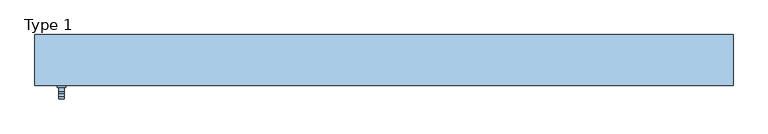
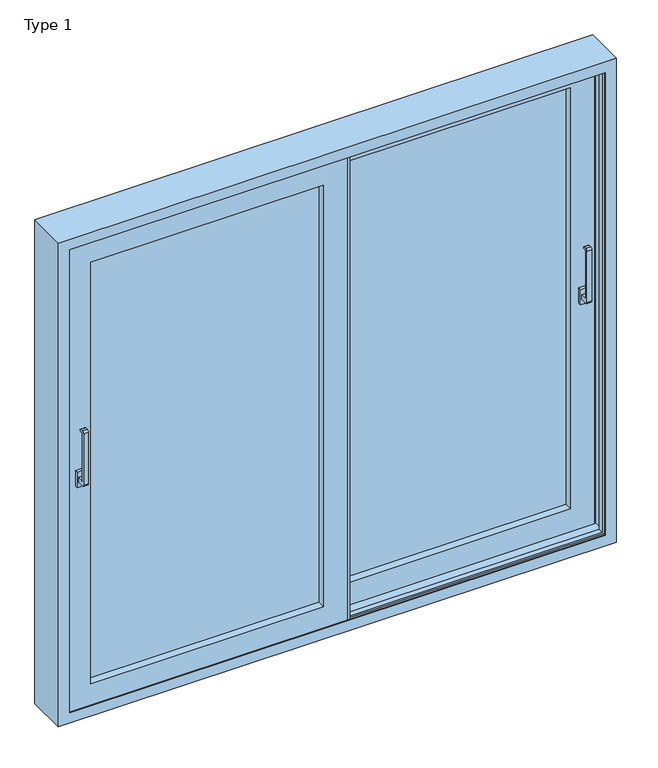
"""IFC4 building model written with IfcOpenShell, lengths in millimetres: window geometry, ETEM_ES70_Double_Lift_Sliding : Type 1."""

from ifc_helpers import new_model, si_unit, point, frame, frame_2d, origin, place, context, project, spatial, polyline, circle_curve, trimmed, segment, composite_curve, outline, extrude, faceted_brep, source, transform, mapped, element, save


def type_1_9f4e2c51(model_context):
    return source(origin(), model_context, "Body", "SolidModel", [
        extrude(outline(polyline([(1123.5, 38.5), (1093.5, 38.5), (1093.5, 51.5), (1123.5, 51.5), (1123.5, 38.5)])), frame((0.0, 0.0, 1065.0), z_axis=(0.0, 0.0, 1.0), x_axis=(1.0, 0.0, 0.0)), (0.0, 0.0, 1.0), 70.0),
        extrude(outline(composite_curve([segment(polyline([(38.5, 1090.0), (6.9263152, 1090.0)]), True, "CONTINUOUS"), segment(trimmed(circle_curve(frame_2d((6.9263152, 1098.4263152)), 8.4263152), [point((6.9263152, 1090.0))], [point((-1.5, 1098.4263152))], False, "CARTESIAN"), True, "CONTINUOUS"), segment(polyline([(-1.5, 1098.4263152), (-1.5, 1331.5736848)]), True, "CONTINUOUS"), segment(trimmed(circle_curve(frame_2d((6.9263152, 1331.5736848)), 8.4263152), [point((-1.5, 1331.5736848))], [point((6.9263152, 1340.0))], False, "CARTESIAN"), True, "CONTINUOUS"), segment(polyline([(6.9263152, 1340.0), (18.5, 1340.0)]), True, "CONTINUOUS"), segment(trimmed(circle_curve(frame_2d((18.5, 1335.0)), 5.0), [point((18.5, 1340.0))], [point((18.5, 1330.0))], False, "CARTESIAN"), True, "CONTINUOUS"), segment(polyline([(18.5, 1330.0), (12.0355339, 1330.0)]), True, "CONTINUOUS"), segment(trimmed(circle_curve(frame_2d((12.0355339, 1326.4644661)), 3.5355339), [point((12.0355339, 1330.0))], [point((8.5, 1326.4644661))], True, "CARTESIAN"), True, "CONTINUOUS"), segment(polyline([(8.5, 1326.4644661), (8.5, 1113.5355339)]), True, "CONTINUOUS"), segment(trimmed(circle_curve(frame_2d((12.0355339, 1113.5355339)), 3.5355339), [point((8.5, 1113.5355339))], [point((12.0355339, 1110.0))], True, "CARTESIAN"), True, "CONTINUOUS"), segment(polyline([(12.0355339, 1110.0), (38.5, 1110.0), (38.5, 1090.0)]), True, "CONTINUOUS")], self_intersect=False)), frame((1098.5, 0.0, 0.0), z_axis=(1.0, 0.0, 0.0), x_axis=(0.0, 1.0, 0.0)), (0.0, 0.0, 1.0), 20.0),
        extrude(outline(polyline([(-1093.5, -51.5), (-1123.5, -51.5), (-1123.5, -38.5), (-1093.5, -38.5), (-1093.5, -51.5)])), frame((0.0, 0.0, 1065.0), z_axis=(0.0, 0.0, 1.0), x_axis=(1.0, 0.0, 0.0)), (0.0, 0.0, 1.0), 70.0),
        extrude(outline(composite_curve([segment(polyline([(-51.5, 1090.0), (-83.0736848, 1090.0)]), True, "CONTINUOUS"), segment(trimmed(circle_curve(frame_2d((-83.0736848, 1098.4263152)), 8.4263152), [point((-83.0736848, 1090.0))], [point((-91.5, 1098.4263152))], False, "CARTESIAN"), True, "CONTINUOUS"), segment(polyline([(-91.5, 1098.4263152), (-91.5, 1331.5736848)]), True, "CONTINUOUS"), segment(trimmed(circle_curve(frame_2d((-83.0736848, 1331.5736848)), 8.4263152), [point((-91.5, 1331.5736848))], [point((-83.0736848, 1340.0))], False, "CARTESIAN"), True, "CONTINUOUS"), segment(polyline([(-83.0736848, 1340.0), (-71.5, 1340.0)]), True, "CONTINUOUS"), segment(trimmed(circle_curve(frame_2d((-71.5, 1335.0)), 5.0), [point((-71.5, 1340.0))], [point((-71.5, 1330.0))], False, "CARTESIAN"), True, "CONTINUOUS"), segment(polyline([(-71.5, 1330.0), (-77.9644661, 1330.0)]), True, "CONTINUOUS"), segment(trimmed(circle_curve(frame_2d((-77.9644661, 1326.4644661)), 3.5355339), [point((-77.9644661, 1330.0))], [point((-81.5, 1326.4644661))], True, "CARTESIAN"), True, "CONTINUOUS"), segment(polyline([(-81.5, 1326.4644661), (-81.5, 1113.5355339)]), True, "CONTINUOUS"), segment(trimmed(circle_curve(frame_2d((-77.9644661, 1113.5355339)), 3.5355339), [point((-81.5, 1113.5355339))], [point((-77.9644661, 1110.0))], True, "CARTESIAN"), True, "CONTINUOUS"), segment(polyline([(-77.9644661, 1110.0), (-51.5, 1110.0), (-51.5, 1090.0)]), True, "CONTINUOUS")], self_intersect=False)), frame((-1118.5, 0.0, 0.0), z_axis=(1.0, 0.0, 0.0), x_axis=(0.0, 1.0, 0.0)), (0.0, 0.0, 1.0), 20.0),
        faceted_brep([(46.5, -26.1, 2161.0), (46.5, -38.5, 2161.0), (46.5, -38.5, 39.0), (46.5, -26.1, 39.0), (-1161.0, -38.5, 2161.0), (-1161.0, -38.5, 39.0), (-56.5, -38.5, 142.0), (-1058.0, -38.5, 142.0), (-1058.0, -38.5, 2058.0), (-56.5, -38.5, 2058.0), (-1161.0, -26.1, 39.0), (-1161.0, -26.1, 2161.0), (15.4, -26.1, 2129.9), (-1129.9, -26.1, 2129.9), (-1129.9, -26.1, 70.1), (15.4, -26.1, 70.1), (15.4, 19.1, 2129.9), (15.4, 19.1, 70.1), (-1129.9, 19.1, 70.1), (46.5, 19.1, 2161.0), (-1161.0, 19.1, 2161.0), (-1161.0, 19.1, 39.0), (46.5, 19.1, 39.0), (-1129.9, 19.1, 2129.9), (46.5, 31.5, 2161.0), (46.5, 31.5, 39.0), (-1161.0, 31.5, 39.0), (-1161.0, 31.5, 2161.0), (-56.5, 31.5, 2058.0), (-1058.0, 31.5, 2058.0), (-1058.0, 31.5, 142.0), (-56.5, 31.5, 142.0)], [[[0, 1, 2, 3]], [[1, 4, 5, 2], [6, 7, 8, 9]], [[3, 2, 5, 10]], [[3, 10, 11, 0], [12, 13, 14, 15]], [[16, 12, 15, 17]], [[17, 15, 14, 18]], [[19, 20, 21, 22], [17, 18, 23, 16]], [[24, 19, 22, 25]], [[25, 22, 21, 26]], [[25, 26, 27, 24], [28, 29, 30, 31]], [[9, 28, 31, 6]], [[6, 31, 30, 7]], [[10, 5, 4, 11]], [[18, 14, 13, 23]], [[26, 21, 20, 27]], [[7, 30, 29, 8]], [[11, 4, 1, 0]], [[23, 13, 12, 16]], [[27, 20, 19, 24]], [[8, 29, 28, 9]]]),
        faceted_brep([(-46.5, 109.1, 2161.0), (-46.5, 121.5, 2161.0), (-46.5, 121.5, 39.0), (-46.5, 109.1, 39.0), (1161.0, 121.5, 39.0), (1161.0, 109.1, 39.0), (1161.0, 121.5, 2161.0), (1058.0, 121.5, 142.0), (1058.0, 121.5, 2058.0), (56.5, 121.5, 2058.0), (56.5, 121.5, 142.0), (1161.0, 109.1, 2161.0), (-15.4, 109.1, 70.1), (-15.4, 109.1, 2129.9), (1129.9, 109.1, 2129.9), (1129.9, 109.1, 70.1), (-15.4, 63.9, 2129.9), (-15.4, 63.9, 70.1), (1129.9, 63.9, 70.1), (1129.9, 63.9, 2129.9), (-46.5, 63.9, 39.0), (-46.5, 63.9, 2161.0), (1161.0, 63.9, 2161.0), (1161.0, 63.9, 39.0), (-46.5, 51.5, 2161.0), (-46.5, 51.5, 39.0), (1161.0, 51.5, 39.0), (1161.0, 51.5, 2161.0), (56.5, 51.5, 142.0), (56.5, 51.5, 2058.0), (1058.0, 51.5, 2058.0), (1058.0, 51.5, 142.0)], [[[0, 1, 2, 3]], [[3, 2, 4, 5]], [[2, 1, 6, 4], [7, 8, 9, 10]], [[5, 4, 6, 11]], [[5, 11, 0, 3], [12, 13, 14, 15]], [[16, 13, 12, 17]], [[17, 12, 15, 18]], [[18, 15, 14, 19]], [[20, 21, 22, 23], [18, 19, 16, 17]], [[24, 21, 20, 25]], [[25, 20, 23, 26]], [[26, 23, 22, 27]], [[26, 27, 24, 25], [28, 29, 30, 31]], [[9, 29, 28, 10]], [[10, 28, 31, 7]], [[7, 31, 30, 8]], [[11, 6, 1, 0]], [[19, 14, 13, 16]], [[27, 22, 21, 24]], [[8, 30, 29, 9]]]),
        extrude(outline(polyline([(56.5, -38.5), (46.5, -38.5), (46.5, 47.5), (56.5, 47.5), (56.5, -38.5)])), frame((0.0, 0.0, 39.0), z_axis=(0.0, 0.0, 1.0), x_axis=(1.0, 0.0, 0.0)), (0.0, 0.0, 1.0), 2122.0),
        extrude(outline(polyline([(-56.5, 37.5), (-56.5, 121.5), (-46.5, 121.5), (-46.5, 37.5), (-56.5, 37.5)])), frame((0.0, 0.0, 39.0), z_axis=(0.0, 0.0, 1.0), x_axis=(1.0, 0.0, 0.0)), (0.0, 0.0, 1.0), 2122.0),
        extrude(outline(polyline([(-56.5, -4.4992409), (-1058.0, -4.4992409), (-1058.0, 1.5007591), (-56.5, 1.5007591), (-56.5, -4.4992409)])), frame((0.0, 0.0, 142.0), z_axis=(0.0, 0.0, 1.0), x_axis=(1.0, 0.0, 0.0)), (0.0, 0.0, 1.0), 1916.0),
        extrude(outline(polyline([(56.5, 113.5007591), (1058.0, 113.5007591), (1058.0, 107.5007591), (56.5, 107.5007591), (56.5, 113.5007591)])), frame((0.0, 0.0, 142.0), z_axis=(0.0, 0.0, 1.0), x_axis=(1.0, 0.0, 0.0)), (0.0, 0.0, 1.0), 1916.0),
        faceted_brep([(-1152.0, 130.0, 0.0), (-1152.0, 122.9, 0.0), (1152.0, 122.9, 0.0), (1152.0, 130.0, 0.0), (1200.0, 130.0, 0.0), (1200.0, -45.1, 0.0), (-1200.0, -45.1, 0.0), (-1200.0, 130.0, 0.0), (-1152.0, 122.9, 2152.0), (1152.0, 122.9, 2152.0), (1152.0, 122.9, 16.3), (1183.7, 122.9, 16.3), (1183.7, 122.9, 2183.7), (-1183.7, 122.9, 2183.7), (-1183.7, 122.9, 16.3), (-1152.0, 122.9, 16.3), (-1152.0, 130.0, 2152.0), (1152.0, 130.0, 2152.0), (1200.0, 130.0, 2200.0), (1200.0, -45.1, 2200.0), (-1200.0, -45.1, 2200.0), (1152.0, -45.1, 2152.0), (1152.0, -45.1, 48.0), (-1152.0, -45.1, 48.0), (-1152.0, -45.1, 2152.0), (-1200.0, 130.0, 2200.0), (1183.7, 91.0, 16.3), (-1183.7, 91.0, 16.3), (1183.7, 91.0, 2183.7), (-1183.7, 91.0, 2183.7), (1160.0, 91.0, 40.0), (1160.0, 91.0, 2160.0), (-1160.0, 91.0, 2160.0), (-1160.0, 91.0, 40.0), (1160.0, 105.0, 2160.0), (1160.0, 105.0, 40.0), (-1160.0, 105.0, 40.0), (-1160.0, 105.0, 2160.0), (1152.0, 105.0, 48.0), (1152.0, 105.0, 2152.0), (-1152.0, 105.0, 2152.0), (-1152.0, 105.0, 48.0), (1152.0, 82.0, 2152.0), (1152.0, 82.0, 48.0), (-1152.0, 82.0, 48.0), (1183.7, 82.0, 16.3), (1183.7, 82.0, 2183.7), (-1183.7, 82.0, 2183.7), (-1183.7, 82.0, 16.3), (-1152.0, 82.0, 2152.0), (1183.7, 1.0, 2183.7), (1183.7, 1.0, 16.3), (-1183.7, 1.0, 16.3), (-1183.7, 1.0, 2183.7), (1152.0, 1.0, 48.0), (1152.0, 1.0, 2152.0), (-1152.0, 1.0, 2152.0), (-1152.0, 1.0, 48.0), (1152.0, -22.0, 2152.0), (1152.0, -22.0, 48.0), (-1152.0, -22.0, 48.0), (1160.0, -22.0, 40.0), (1160.0, -22.0, 2160.0), (-1160.0, -22.0, 2160.0), (-1160.0, -22.0, 40.0), (-1152.0, -22.0, 2152.0), (1160.0, -8.0, 2160.0), (1160.0, -8.0, 40.0), (-1160.0, -8.0, 40.0), (1183.7, -8.0, 16.3), (1183.7, -8.0, 2183.7), (-1183.7, -8.0, 2183.7), (-1183.7, -8.0, 16.3), (-1160.0, -8.0, 2160.0), (1183.7, -41.3, 2183.7), (1183.7, -41.3, 16.3), (-1183.7, -41.3, 16.3), (-1183.7, -41.3, 2183.7), (1152.0, -41.3, 48.0), (1152.0, -41.3, 2152.0), (-1152.0, -41.3, 2152.0), (-1152.0, -41.3, 48.0)], [[[0, 1, 2, 3, 4, 5, 6, 7]], [[8, 9, 10, 11, 12, 13, 14, 15]], [[1, 0, 16, 8, 15]], [[2, 1, 15, 10]], [[3, 2, 10, 9, 17]], [[5, 4, 18, 19]], [[5, 19, 20, 6], [21, 22, 23, 24]], [[7, 6, 20, 25]], [[0, 7, 25, 18, 4, 3, 17, 16]], [[26, 11, 10, 15, 14, 27]], [[28, 12, 11, 26]], [[27, 14, 13, 29]], [[28, 26, 27, 29], [30, 31, 32, 33]], [[34, 31, 30, 35]], [[35, 30, 33, 36]], [[34, 35, 36, 37], [38, 39, 40, 41]], [[42, 39, 38, 43]], [[43, 38, 41, 44]], [[45, 46, 47, 48], [42, 43, 44, 49]], [[50, 46, 45, 51]], [[51, 45, 48, 52]], [[50, 51, 52, 53], [54, 55, 56, 57]], [[58, 55, 54, 59]], [[59, 54, 57, 60]], [[61, 62, 63, 64], [58, 59, 60, 65]], [[66, 62, 61, 67]], [[67, 61, 64, 68]], [[69, 70, 71, 72], [66, 67, 68, 73]], [[74, 70, 69, 75]], [[75, 69, 72, 76]], [[74, 75, 76, 77], [78, 79, 80, 81]], [[21, 79, 78, 22]], [[22, 78, 81, 23]], [[36, 33, 32, 37]], [[44, 41, 40, 49]], [[52, 48, 47, 53]], [[60, 57, 56, 65]], [[68, 64, 63, 73]], [[76, 72, 71, 77]], [[23, 81, 80, 24]], [[18, 25, 20, 19]], [[16, 17, 9, 8]], [[12, 28, 29, 13]], [[31, 34, 37, 32]], [[39, 42, 49, 40]], [[46, 50, 53, 47]], [[55, 58, 65, 56]], [[62, 66, 73, 63]], [[70, 74, 77, 71]], [[79, 21, 24, 80]]]),
        extrude(outline(polyline([(56.5, 91.5007591), (1058.0, 91.5007591), (1058.0, 85.5007591), (56.5, 85.5007591), (56.5, 91.5007591)])), frame((0.0, 0.0, 142.0), z_axis=(0.0, 0.0, 1.0), x_axis=(1.0, 0.0, 0.0)), (0.0, 0.0, 1.0), 1916.0),
        extrude(outline(polyline([(-56.5, 17.5007591), (-1058.0, 17.5007591), (-1058.0, 23.5007591), (-56.5, 23.5007591), (-56.5, 17.5007591)])), frame((0.0, 0.0, 142.0), z_axis=(0.0, 0.0, 1.0), x_axis=(1.0, 0.0, 0.0)), (0.0, 0.0, 1.0), 1916.0),
    ])


if __name__ == "__main__":
    model = new_model("IFC4")
    model_context = context("Model", 3, world=origin())
    ifc_project = project(units=[si_unit("LENGTHUNIT", "METRE", prefix="MILLI")], contexts=[model_context])
    site = spatial("IfcSite", under=ifc_project)
    building = spatial("IfcBuilding", under=site)
    placement = place(None, origin())
    type_1_shape = type_1_9f4e2c51(model_context)
    element("IfcWindow", 1, ObjectType="ETEM_ES70_Double_Lift_Sliding : Type 1", at=placement, inside=building, context=model_context, shape_type="MappedRepresentation", body=[
        mapped(type_1_shape, transform((0.0, 0.0, 0.0), x_axis=(1.0, 0.0, 0.0), y_axis=(0.0, 1.0, 0.0), z_axis=(0.0, 0.0, 1.0))),
    ])
    save(model, "model.ifc")
